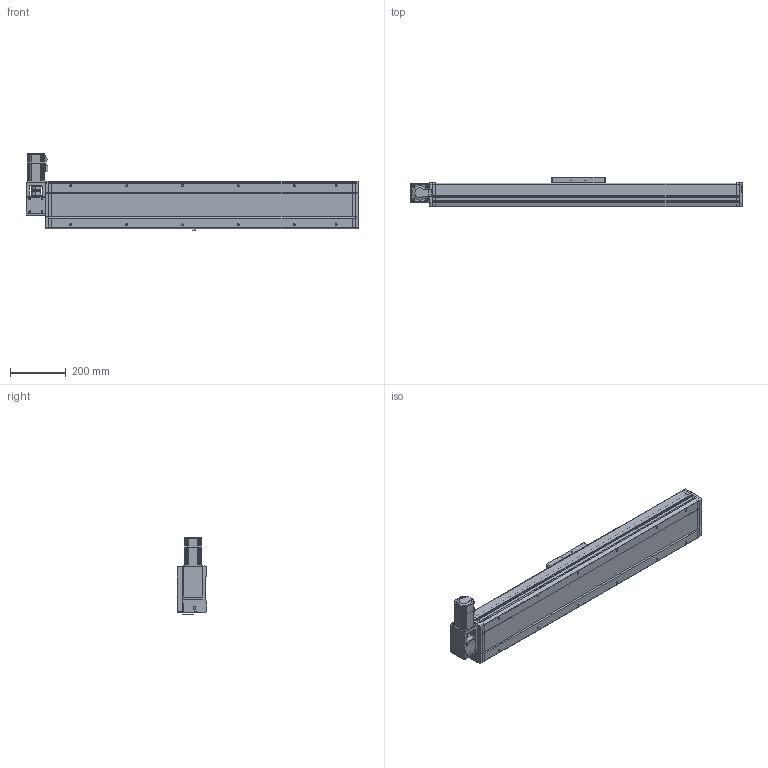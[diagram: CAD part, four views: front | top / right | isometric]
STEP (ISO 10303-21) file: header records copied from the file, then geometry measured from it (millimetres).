
FILE_DESCRIPTION((''),'2;1');
FILE_NAME('170-TZJ3FL-S800_ASM','2015-12-04T',('lenovo'),(''),'PRO/ENGINEER BY PARAMETRIC TECHNOLOGY CORPORATION, 2010280','PRO/ENGINEER BY PARAMETRIC TECHNOLOGY CORPORATION, 2010280','');
FILE_SCHEMA(('CONFIG_CONTROL_DESIGN'));
Length unit declared in the file: millimetre
Products named in the file (5): 170-TJFL-DZ; 170-HK; 170-HDB-01; 170-TZJ3FL-DJZ; 170-TZJ3FL-S800_ASM
Assembly tree (4 placements, depth 2):
  170-TZJ3FL-S800_ASM
    170-TJFL-DZ
    170-HK
    170-HDB-01
    170-TZJ3FL-DJZ
Bounding box: 1189 x 107 x 278.5 mm (x, y, z)
Volume: 9048677.4 mm3; surface area: 1392925.2 mm2
Topology: 6 solids, 30 shells, 1480 faces, 4021 edges, 2681 vertices
Faces by surface type: plane 792, cylinder 547, cone 113, torus 28
Entity records: 47419 total; most frequent: CARTESIAN_POINT 8465, DIRECTION 8324, ORIENTED_EDGE 8042, EDGE_CURVE 4021, AXIS2_PLACEMENT_3D 2856, VERTEX_POINT 2681, VECTOR 2612, LINE 2612
